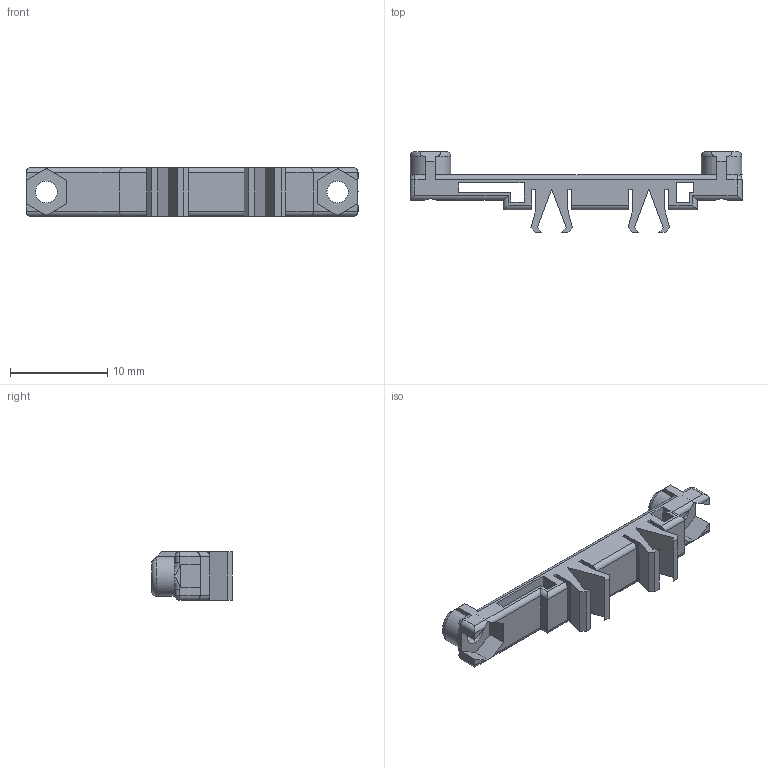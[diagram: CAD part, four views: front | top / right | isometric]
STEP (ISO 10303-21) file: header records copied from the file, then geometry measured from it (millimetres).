
FILE_DESCRIPTION(/* description */ (''),/* implementation_level */ '2;1');
FILE_NAME(/* name */ 'C:/Users/priba/Downloads/PCBJoinShort.step',/* time_stamp */ '2022-04-05T09:25:49+02:00',/* author */ (''),/* organization */ (''),/* preprocessor_version */ 'ST-DEVELOPER v18.1',/* originating_system */ 'Autodesk Translation Framework v10.13.0.1454',/* authorisation */ '');
FILE_SCHEMA (('AUTOMOTIVE_DESIGN { 1 0 10303 214 3 1 1 }'));
Length unit declared in the file: millimetre
Products named in the file (1): PCBJoinShort
Bounding box: 34.2 x 8.31 x 5 mm (x, y, z)
Volume: 424.1 mm3; surface area: 1086.4 mm2
Topology: 1 solids, 1 shells, 161 faces, 436 edges, 278 vertices
Faces by surface type: plane 121, cylinder 30, sphere 4, bspline 4, torus 2
Full cylindrical faces by diameter (mm): 2.2 x1, 2.25 x1
Entity records: 5172 total; most frequent: CARTESIAN_POINT 1086, ORIENTED_EDGE 864, DIRECTION 808, EDGE_CURVE 432, LINE 344, VECTOR 344, VERTEX_POINT 278, AXIS2_PLACEMENT_3D 232
